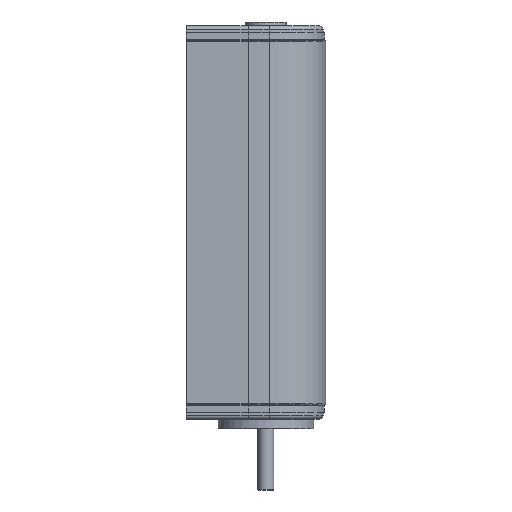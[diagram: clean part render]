
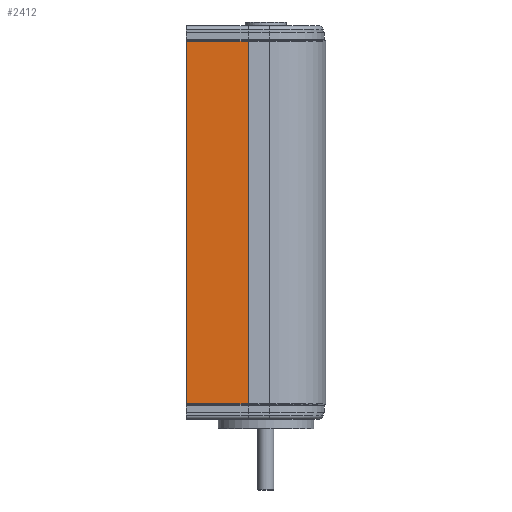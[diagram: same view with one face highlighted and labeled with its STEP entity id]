
A CAD part, front view. The second image highlights one B-rep face of the part: STEP entity #2412.
In plain terms, the highlighted planar face has unit normal (0, -1, 0).
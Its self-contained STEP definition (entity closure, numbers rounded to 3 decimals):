
#600 = ORIENTED_EDGE ( 'NONE', *, *, #5935, .T. ) ;
#643 = CARTESIAN_POINT ( 'NONE',  ( -22.259, -76.7, 227.6 ) ) ;
#653 = LINE ( 'NONE', #3997, #2128 ) ;
#769 = PLANE ( 'NONE',  #10583 ) ;
#955 = EDGE_LOOP ( 'NONE', ( #1497, #3216, #2504, #600 ) ) ;
#1100 = CARTESIAN_POINT ( 'NONE',  ( -100., -76.7, 227.6 ) ) ;
#1331 = LINE ( 'NONE', #9360, #7096 ) ;
#1497 = ORIENTED_EDGE ( 'NONE', *, *, #1525, .F. ) ;
#1525 = EDGE_CURVE ( 'NONE', #7918, #5803, #1331, .T. ) ;
#1925 = DIRECTION ( 'NONE',  ( 0., 0., -1. ) ) ;
#2096 = CARTESIAN_POINT ( 'NONE',  ( -22.259, -76.7, -227.6 ) ) ;
#2128 = VECTOR ( 'NONE', #7716, 1000. ) ;
#2412 = ADVANCED_FACE ( 'NONE', ( #3461 ), #769, .F. ) ;
#2504 = ORIENTED_EDGE ( 'NONE', *, *, #7925, .T. ) ;
#2897 = DIRECTION ( 'NONE',  ( 0., 0., -1. ) ) ;
#3216 = ORIENTED_EDGE ( 'NONE', *, *, #5217, .F. ) ;
#3461 = FACE_OUTER_BOUND ( 'NONE', #955, .T. ) ;
#3997 = CARTESIAN_POINT ( 'NONE',  ( -22.259, -76.7, 227.6 ) ) ;
#4413 = DIRECTION ( 'NONE',  ( -1., 0., 0. ) ) ;
#4831 = VECTOR ( 'NONE', #1925, 1000. ) ;
#5217 = EDGE_CURVE ( 'NONE', #9913, #7918, #8815, .T. ) ;
#5449 = VERTEX_POINT ( 'NONE', #6119 ) ;
#5803 = VERTEX_POINT ( 'NONE', #8499 ) ;
#5935 = EDGE_CURVE ( 'NONE', #5449, #5803, #8631, .T. ) ;
#6119 = CARTESIAN_POINT ( 'NONE',  ( -100., -76.7, 227.6 ) ) ;
#7096 = VECTOR ( 'NONE', #10211, 1000. ) ;
#7308 = DIRECTION ( 'NONE',  ( 0., 1., 0. ) ) ;
#7716 = DIRECTION ( 'NONE',  ( -1., 0., 0. ) ) ;
#7918 = VERTEX_POINT ( 'NONE', #2096 ) ;
#7925 = EDGE_CURVE ( 'NONE', #9913, #5449, #653, .T. ) ;
#8499 = CARTESIAN_POINT ( 'NONE',  ( -100., -76.7, -227.6 ) ) ;
#8526 = VECTOR ( 'NONE', #2897, 1000. ) ;
#8631 = LINE ( 'NONE', #1100, #4831 ) ;
#8815 = LINE ( 'NONE', #11428, #8526 ) ;
#9360 = CARTESIAN_POINT ( 'NONE',  ( -22.259, -76.7, -227.6 ) ) ;
#9913 = VERTEX_POINT ( 'NONE', #12059 ) ;
#10211 = DIRECTION ( 'NONE',  ( -1., 0., 0. ) ) ;
#10583 = AXIS2_PLACEMENT_3D ( 'NONE', #643, #7308, #4413 ) ;
#11428 = CARTESIAN_POINT ( 'NONE',  ( -22.259, -76.7, 227.6 ) ) ;
#12059 = CARTESIAN_POINT ( 'NONE',  ( -22.259, -76.7, 227.6 ) ) ;
